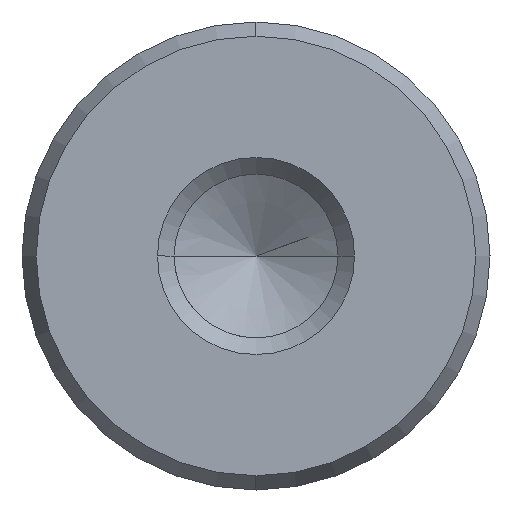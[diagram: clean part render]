
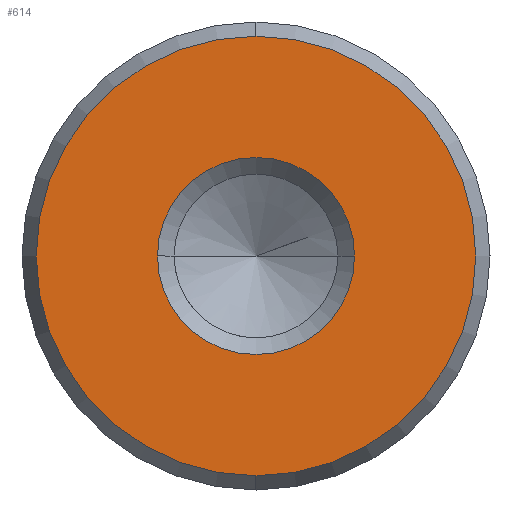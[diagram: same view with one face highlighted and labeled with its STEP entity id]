
A CAD part, left-side view. The second image highlights one B-rep face of the part: STEP entity #614.
In plain terms, the highlighted planar face has unit normal (-1, 0, 0).
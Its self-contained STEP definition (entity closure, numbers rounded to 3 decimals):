
#528=CARTESIAN_POINT('Vertex',(0.,0.,-8.923)) ;
#531=CARTESIAN_POINT('Axis2P3D Location',(0.,0.,0.)) ;
#535=CARTESIAN_POINT('Vertex',(0.,8.923,0.)) ;
#538=CARTESIAN_POINT('Axis2P3D Location',(0.,0.,0.)) ;
#542=CARTESIAN_POINT('Vertex',(0.,0.,8.923)) ;
#564=CARTESIAN_POINT('Axis2P3D Location',(0.,0.,0.)) ;
#568=CARTESIAN_POINT('Vertex',(0.,-8.923,0.)) ;
#571=CARTESIAN_POINT('Axis2P3D Location',(0.,0.,0.)) ;
#585=CARTESIAN_POINT('Axis2P3D Location',(0.,0.,0.)) ;
#596=CARTESIAN_POINT('Axis2P3D Location',(0.,0.,0.)) ;
#600=CARTESIAN_POINT('Vertex',(0.,4.,0.)) ;
#602=CARTESIAN_POINT('Vertex',(0.,-4.,0.)) ;
#605=CARTESIAN_POINT('Axis2P3D Location',(0.,0.,0.)) ;
#532=DIRECTION('Axis2P3D Direction',(1.,0.,-0.)) ;
#539=DIRECTION('Axis2P3D Direction',(1.,0.,-0.)) ;
#565=DIRECTION('Axis2P3D Direction',(1.,0.,-0.)) ;
#572=DIRECTION('Axis2P3D Direction',(1.,0.,-0.)) ;
#586=DIRECTION('Axis2P3D Direction',(1.,0.,-0.)) ;
#587=DIRECTION('Axis2P3D XDirection',(-0.,0.,-1.)) ;
#597=DIRECTION('Axis2P3D Direction',(1.,0.,-0.)) ;
#606=DIRECTION('Axis2P3D Direction',(1.,0.,-0.)) ;
#533=AXIS2_PLACEMENT_3D('Circle Axis2P3D',#531,#532,$) ;
#540=AXIS2_PLACEMENT_3D('Circle Axis2P3D',#538,#539,$) ;
#566=AXIS2_PLACEMENT_3D('Circle Axis2P3D',#564,#565,$) ;
#573=AXIS2_PLACEMENT_3D('Circle Axis2P3D',#571,#572,$) ;
#588=AXIS2_PLACEMENT_3D('Plane Axis2P3D',#585,#586,#587) ;
#598=AXIS2_PLACEMENT_3D('Circle Axis2P3D',#596,#597,$) ;
#607=AXIS2_PLACEMENT_3D('Circle Axis2P3D',#605,#606,$) ;
#591=ORIENTED_EDGE('',*,*,#537,.F.) ;
#592=ORIENTED_EDGE('',*,*,#575,.F.) ;
#593=ORIENTED_EDGE('',*,*,#570,.F.) ;
#594=ORIENTED_EDGE('',*,*,#544,.F.) ;
#611=ORIENTED_EDGE('',*,*,#604,.T.) ;
#612=ORIENTED_EDGE('',*,*,#609,.T.) ;
#613=FACE_BOUND('',#610,.T.) ;
#614=ADVANCED_FACE('720-19x224',(#595,#613),#589,.F.) ;
#534=CIRCLE('generated circle',#533,8.923) ;
#541=CIRCLE('generated circle',#540,8.923) ;
#567=CIRCLE('generated circle',#566,8.923) ;
#574=CIRCLE('generated circle',#573,8.923) ;
#599=CIRCLE('generated circle',#598,4.) ;
#608=CIRCLE('generated circle',#607,4.) ;
#537=EDGE_CURVE('',#529,#536,#534,.T.) ;
#544=EDGE_CURVE('',#536,#543,#541,.T.) ;
#570=EDGE_CURVE('',#543,#569,#567,.T.) ;
#575=EDGE_CURVE('',#569,#529,#574,.T.) ;
#604=EDGE_CURVE('',#601,#603,#599,.T.) ;
#609=EDGE_CURVE('',#603,#601,#608,.T.) ;
#590=EDGE_LOOP('',(#591,#592,#593,#594)) ;
#610=EDGE_LOOP('',(#611,#612)) ;
#595=FACE_OUTER_BOUND('',#590,.T.) ;
#589=PLANE('Plane',#588) ;
#529=VERTEX_POINT('',#528) ;
#536=VERTEX_POINT('',#535) ;
#543=VERTEX_POINT('',#542) ;
#569=VERTEX_POINT('',#568) ;
#601=VERTEX_POINT('',#600) ;
#603=VERTEX_POINT('',#602) ;
